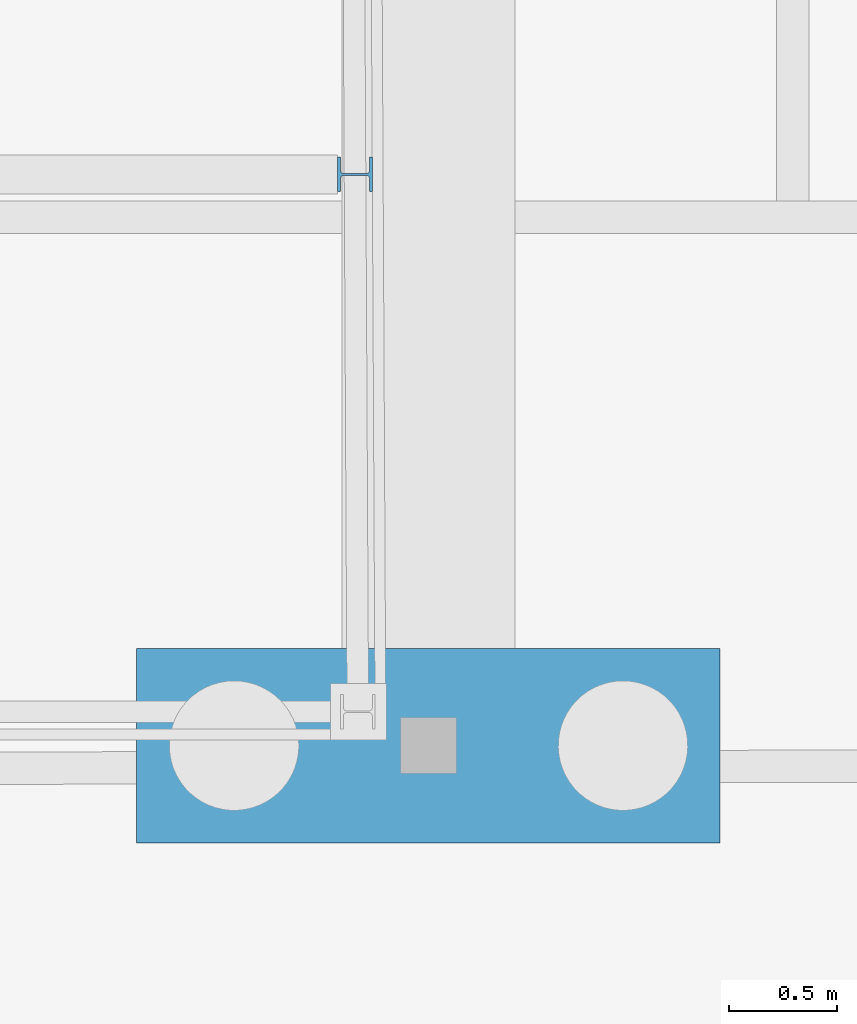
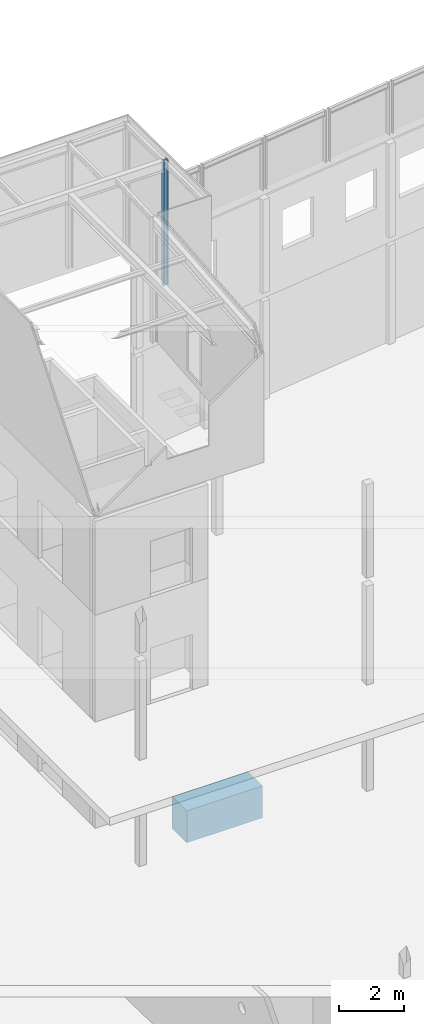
# One storey, part 47 of 82: 2 columns.
"""IFC2X3 building model written with IfcOpenShell, lengths in millimetres."""

from ifc_helpers import new_model, si_unit, frame, frame_2d, origin_with_axes, place, context, subcontext, project, spatial, rectangle, i_section, extrude, material, type_object, element, save


model = new_model("IFC2X3")

# Units and contexts
model_context = context("Model", 3, precision=1e-05, world=origin_with_axes())
body_context = subcontext(model_context, "Body", "Model", "MODEL_VIEW")
ifc_project = project(units=[si_unit("LENGTHUNIT", "METRE", prefix="MILLI"), si_unit("AREAUNIT", "SQUARE_METRE"), si_unit("VOLUMEUNIT", "CUBIC_METRE"), si_unit("MASSUNIT", "GRAM", prefix="KILO"), si_unit("TIMEUNIT", "SECOND"), si_unit("PLANEANGLEUNIT", "RADIAN"), si_unit("SOLIDANGLEUNIT", "STERADIAN"), si_unit("THERMODYNAMICTEMPERATUREUNIT", "DEGREE_CELSIUS"), si_unit("LUMINOUSINTENSITYUNIT", "LUMEN")], contexts=[model_context])

# Site, building, storey
site_placement = place(None, origin_with_axes())
site = spatial("IfcSite", under=ifc_project, at=site_placement, Name="Undefined", CompositionType="ELEMENT")
building_placement = place(site_placement, origin_with_axes())
building = spatial("IfcBuilding", under=site, at=building_placement, Name="Undefined", CompositionType="ELEMENT")
storey_placement = place(building_placement, origin_with_axes())
storey = spatial("IfcBuildingStorey", under=building, at=storey_placement, Name="Undefined", CompositionType="ELEMENT", Elevation=0.0)

# Columns
ifc_material_1 = material(Name="STEEL/S275JR")
column_type_1 = type_object("IfcColumnType", Name="HEB160", PredefinedType="NOTDEFINED")
column_1_placement = place(storey_placement, frame((37009.7003801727, 21243.5912854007, 17160.0), z_axis=(0.0, 0.0, 1.0), x_axis=(1.0, 0.0, 0.0)))
element("IfcColumn", 1, at=column_1_placement, inside=storey, type_object=column_type_1, material=ifc_material_1, Name="POTEAU", ObjectType="HEB160", context=body_context, shape_type="SweptSolid", body=[
    extrude(i_section(OverallWidth=160.0, OverallDepth=160.0, WebThickness=8.0, FlangeThickness=13.0, FilletRadius=15.0, at=frame_2d((5.17284206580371e-08, 4.49290382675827e-10), x_axis=(1.0, 0.0))), frame((0.0, 0.0, 4735.0), z_axis=(0.0, -6.50000002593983e-08, -0.999999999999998), x_axis=(-2.77555756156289e-17, -1.0, 0.0)), (0.0, 0.0, 1.0), 4735.0),
])
ifc_material_2 = material(Name="CONCRETE/C30/37")
column_type_2 = type_object("IfcColumnType", Name="2700*900", PredefinedType="NOTDEFINED")
column_2_placement = place(storey_placement, frame((37349.2099999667, 18599.9999999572, -1649.97), z_axis=(0.0, 0.0, 1.0), x_axis=(1.0, 0.0, 0.0)))
element("IfcColumn", 2, at=column_2_placement, inside=storey, type_object=column_type_2, material=ifc_material_2, Name="SEMELLE", ObjectType="2700*900", context=body_context, shape_type="SweptSolid", body=[
    extrude(rectangle(XDim=900.0, YDim=2700.0, at=frame_2d((5.17284206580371e-08, 4.49290382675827e-10), x_axis=(1.0, 0.0))), frame((0.0, 0.0, 1199.97), z_axis=(0.0, -6.50000002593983e-08, -0.999999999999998), x_axis=(-2.77555756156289e-17, -1.0, 0.0)), (0.0, 0.0, 1.0), 1200.0),
])

save(model, "model.ifc")
